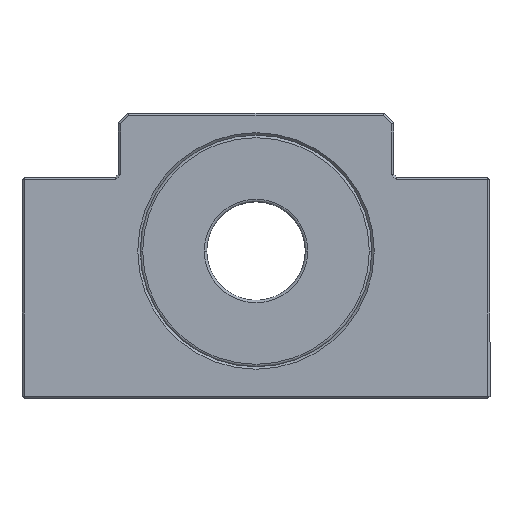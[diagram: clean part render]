
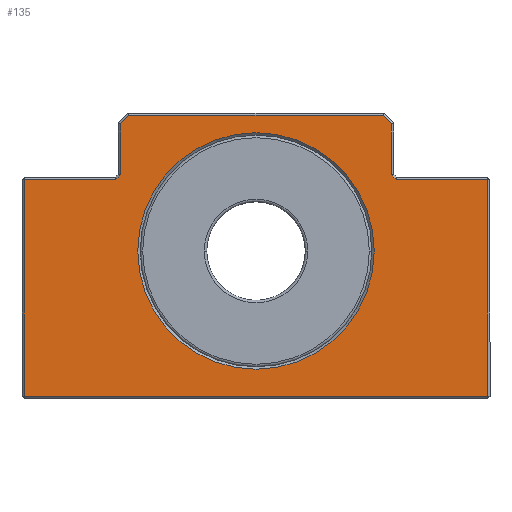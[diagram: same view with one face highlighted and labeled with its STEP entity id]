
A CAD part, top view. The second image highlights one B-rep face of the part: STEP entity #135.
In plain terms, the highlighted planar face has unit normal (0, 0, 1).
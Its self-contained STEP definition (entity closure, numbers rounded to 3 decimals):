
#43 = EDGE_CURVE ( 'NONE', #395, #403, #876, .T. ) ;
#44 = EDGE_CURVE ( 'NONE', #395, #390, #879, .T. ) ;
#45 = EDGE_CURVE ( 'NONE', #391, #390, #882, .T. ) ;
#46 = EDGE_CURVE ( 'NONE', #392, #391, #885, .T. ) ;
#47 = EDGE_CURVE ( 'NONE', #420, #392, #888, .T. ) ;
#48 = EDGE_CURVE ( 'NONE', #421, #420, #891, .T. ) ;
#49 = EDGE_CURVE ( 'NONE', #424, #421, #894, .T. ) ;
#50 = EDGE_CURVE ( 'NONE', #424, #387, #897, .T. ) ;
#51 = EDGE_CURVE ( 'NONE', #422, #387, #900, .T. ) ;
#52 = EDGE_CURVE ( 'NONE', #405, #422, #903, .T. ) ;
#53 = EDGE_CURVE ( 'NONE', #403, #408, #906, .T. ) ;
#54 = EDGE_CURVE ( 'NONE', #1383, #410, #249, .T. ) ;
#55 = EDGE_CURVE ( 'NONE', #408, #405, #912, .T. ) ;
#80 = EDGE_CURVE ( 'NONE', #410, #1383, #259, .T. ) ;
#135 = ADVANCED_FACE ( 'NONE', ( #1981, #1986 ), #1649, .F. ) ;
#249 = CIRCLE ( 'NONE', #726, 24. ) ;
#259 = CIRCLE ( 'NONE', #1805, 24. ) ;
#387 = VERTEX_POINT ( 'NONE', #536 ) ;
#390 = VERTEX_POINT ( 'NONE', #539 ) ;
#391 = VERTEX_POINT ( 'NONE', #540 ) ;
#392 = VERTEX_POINT ( 'NONE', #541 ) ;
#395 = VERTEX_POINT ( 'NONE', #544 ) ;
#403 = VERTEX_POINT ( 'NONE', #547 ) ;
#405 = VERTEX_POINT ( 'NONE', #549 ) ;
#408 = VERTEX_POINT ( 'NONE', #552 ) ;
#410 = VERTEX_POINT ( 'NONE', #554 ) ;
#420 = VERTEX_POINT ( 'NONE', #556 ) ;
#421 = VERTEX_POINT ( 'NONE', #557 ) ;
#422 = VERTEX_POINT ( 'NONE', #558 ) ;
#424 = VERTEX_POINT ( 'NONE', #560 ) ;
#536 = CARTESIAN_POINT ( 'NONE',  ( -27.5, 15.5, 13. ) ) ;
#539 = CARTESIAN_POINT ( 'NONE',  ( 28.5, 14.5, 13. ) ) ;
#540 = CARTESIAN_POINT ( 'NONE',  ( 47., 14.5, 13. ) ) ;
#541 = CARTESIAN_POINT ( 'NONE',  ( 47., -29.5, 13. ) ) ;
#544 = CARTESIAN_POINT ( 'NONE',  ( 27.5, 15.5, 13. ) ) ;
#547 = CARTESIAN_POINT ( 'NONE',  ( 27.5, 25.793, 13. ) ) ;
#549 = CARTESIAN_POINT ( 'NONE',  ( -25.793, 27.5, 13. ) ) ;
#552 = CARTESIAN_POINT ( 'NONE',  ( 25.793, 27.5, 13. ) ) ;
#554 = CARTESIAN_POINT ( 'NONE',  ( 24., 0., 13. ) ) ;
#556 = CARTESIAN_POINT ( 'NONE',  ( -47., -29.5, 13. ) ) ;
#557 = CARTESIAN_POINT ( 'NONE',  ( -47., 14.5, 13. ) ) ;
#558 = CARTESIAN_POINT ( 'NONE',  ( -27.5, 25.793, 13. ) ) ;
#560 = CARTESIAN_POINT ( 'NONE',  ( -28.5, 14.5, 13. ) ) ;
#597 = CARTESIAN_POINT ( 'NONE',  ( -24., 0., 13. ) ) ;
#698 = VECTOR ( 'NONE', #884, 1000. ) ;
#718 = VECTOR ( 'NONE', #878, 1000. ) ;
#719 = VECTOR ( 'NONE', #881, 1000. ) ;
#722 = VECTOR ( 'NONE', #887, 1000. ) ;
#723 = VECTOR ( 'NONE', #890, 1000. ) ;
#724 = VECTOR ( 'NONE', #893, 1000. ) ;
#725 = VECTOR ( 'NONE', #896, 1000. ) ;
#726 = AXIS2_PLACEMENT_3D ( 'NONE', #872, #909, #910 ) ;
#727 = VECTOR ( 'NONE', #899, 1000. ) ;
#728 = VECTOR ( 'NONE', #902, 1000. ) ;
#729 = VECTOR ( 'NONE', #905, 1000. ) ;
#730 = VECTOR ( 'NONE', #908, 1000. ) ;
#732 = VECTOR ( 'NONE', #914, 1000. ) ;
#759 = ORIENTED_EDGE ( 'NONE', *, *, #80, .T. ) ;
#760 = ORIENTED_EDGE ( 'NONE', *, *, #54, .T. ) ;
#761 = ORIENTED_EDGE ( 'NONE', *, *, #53, .T. ) ;
#762 = ORIENTED_EDGE ( 'NONE', *, *, #52, .T. ) ;
#763 = ORIENTED_EDGE ( 'NONE', *, *, #55, .T. ) ;
#764 = ORIENTED_EDGE ( 'NONE', *, *, #51, .T. ) ;
#765 = ORIENTED_EDGE ( 'NONE', *, *, #50, .F. ) ;
#766 = ORIENTED_EDGE ( 'NONE', *, *, #49, .T. ) ;
#767 = ORIENTED_EDGE ( 'NONE', *, *, #48, .T. ) ;
#768 = ORIENTED_EDGE ( 'NONE', *, *, #47, .T. ) ;
#769 = ORIENTED_EDGE ( 'NONE', *, *, #46, .T. ) ;
#770 = ORIENTED_EDGE ( 'NONE', *, *, #45, .T. ) ;
#771 = ORIENTED_EDGE ( 'NONE', *, *, #44, .F. ) ;
#772 = ORIENTED_EDGE ( 'NONE', *, *, #43, .T. ) ;
#872 = CARTESIAN_POINT ( 'NONE',  ( 0., 0., 13. ) ) ;
#876 = LINE ( 'NONE', #877, #718 ) ;
#877 = CARTESIAN_POINT ( 'NONE',  ( 27.5, 0., 13. ) ) ;
#878 = DIRECTION ( 'NONE',  ( 0., 1., 0. ) ) ;
#879 = LINE ( 'NONE', #880, #719 ) ;
#880 = CARTESIAN_POINT ( 'NONE',  ( 28.5, 14.5, 13. ) ) ;
#881 = DIRECTION ( 'NONE',  ( 0.707, -0.707, 0. ) ) ;
#882 = LINE ( 'NONE', #883, #698 ) ;
#883 = CARTESIAN_POINT ( 'NONE',  ( 0., 14.5, 13. ) ) ;
#884 = DIRECTION ( 'NONE',  ( -1., 0., 0. ) ) ;
#885 = LINE ( 'NONE', #886, #722 ) ;
#886 = CARTESIAN_POINT ( 'NONE',  ( 47., 0., 13. ) ) ;
#887 = DIRECTION ( 'NONE',  ( 0., 1., 0. ) ) ;
#888 = LINE ( 'NONE', #889, #723 ) ;
#889 = CARTESIAN_POINT ( 'NONE',  ( 0., -29.5, 13. ) ) ;
#890 = DIRECTION ( 'NONE',  ( 1., 0., 0. ) ) ;
#891 = LINE ( 'NONE', #892, #724 ) ;
#892 = CARTESIAN_POINT ( 'NONE',  ( -47., 0., 13. ) ) ;
#893 = DIRECTION ( 'NONE',  ( 0., -1., 0. ) ) ;
#894 = LINE ( 'NONE', #895, #725 ) ;
#895 = CARTESIAN_POINT ( 'NONE',  ( 0., 14.5, 13. ) ) ;
#896 = DIRECTION ( 'NONE',  ( -1., 0., 0. ) ) ;
#897 = LINE ( 'NONE', #898, #727 ) ;
#898 = CARTESIAN_POINT ( 'NONE',  ( -27.5, 15.5, 13. ) ) ;
#899 = DIRECTION ( 'NONE',  ( 0.707, 0.707, 0. ) ) ;
#900 = LINE ( 'NONE', #901, #728 ) ;
#901 = CARTESIAN_POINT ( 'NONE',  ( -27.5, 0., 13. ) ) ;
#902 = DIRECTION ( 'NONE',  ( 0., -1., 0. ) ) ;
#903 = LINE ( 'NONE', #904, #729 ) ;
#904 = CARTESIAN_POINT ( 'NONE',  ( -27.646, 25.646, 13. ) ) ;
#905 = DIRECTION ( 'NONE',  ( -0.707, -0.707, 0. ) ) ;
#906 = LINE ( 'NONE', #907, #730 ) ;
#907 = CARTESIAN_POINT ( 'NONE',  ( 25.646, 27.646, 13. ) ) ;
#908 = DIRECTION ( 'NONE',  ( -0.707, 0.707, 0. ) ) ;
#909 = DIRECTION ( 'NONE',  ( 0., 0., -1. ) ) ;
#910 = DIRECTION ( 'NONE',  ( -1., 0., 0. ) ) ;
#912 = LINE ( 'NONE', #913, #732 ) ;
#913 = CARTESIAN_POINT ( 'NONE',  ( 0., 27.5, 13. ) ) ;
#914 = DIRECTION ( 'NONE',  ( -1., 0., 0. ) ) ;
#980 = CARTESIAN_POINT ( 'NONE',  ( 0., 0., 13. ) ) ;
#987 = DIRECTION ( 'NONE',  ( 0., 0., -1. ) ) ;
#988 = DIRECTION ( 'NONE',  ( -1., 0., 0. ) ) ;
#1088 = EDGE_LOOP ( 'NONE', ( #761, #763, #762, #764, #765, #766, #767, #768, #769, #770, #771, #772 ) ) ;
#1099 = EDGE_LOOP ( 'NONE', ( #759, #760 ) ) ;
#1383 = VERTEX_POINT ( 'NONE', #597 ) ;
#1649 = PLANE ( 'NONE',  #1988 ) ;
#1650 = CARTESIAN_POINT ( 'NONE',  ( 0., 0., 13. ) ) ;
#1651 = DIRECTION ( 'NONE',  ( 0., 0., -1. ) ) ;
#1652 = DIRECTION ( 'NONE',  ( -1., 0., 0. ) ) ;
#1805 = AXIS2_PLACEMENT_3D ( 'NONE', #980, #987, #988 ) ;
#1981 = FACE_BOUND ( 'NONE', #1099, .T. ) ;
#1986 = FACE_OUTER_BOUND ( 'NONE', #1088, .T. ) ;
#1988 = AXIS2_PLACEMENT_3D ( 'NONE', #1650, #1651, #1652 ) ;
